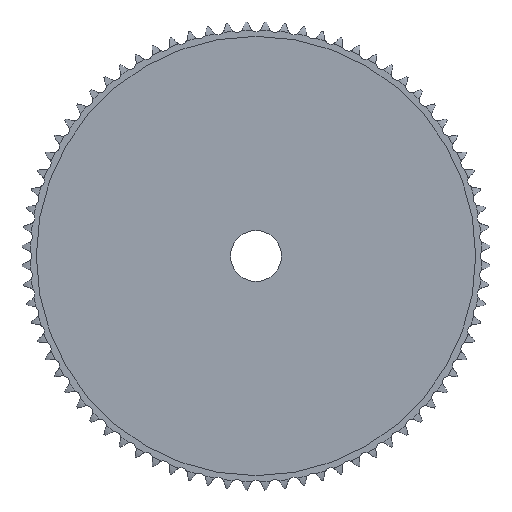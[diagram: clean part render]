
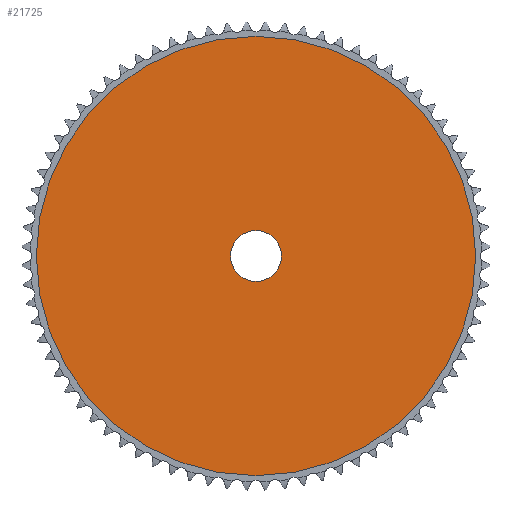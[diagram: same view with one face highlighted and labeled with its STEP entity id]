
A CAD part, top view. The second image highlights one B-rep face of the part: STEP entity #21725.
In plain terms, the highlighted planar face has unit normal (0, 0, 1).
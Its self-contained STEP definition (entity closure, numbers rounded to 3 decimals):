
#12227=CARTESIAN_POINT('',(0.,0.,2.));
#12228=DIRECTION('',(0.,0.,-1.));
#12229=DIRECTION('',(-1.,0.,0.));
#12230=AXIS2_PLACEMENT_3D('',#12227,#12228,#12229);
#12235=CARTESIAN_POINT('',(0.,0.,2.));
#12236=DIRECTION('',(0.,0.,-1.));
#12237=DIRECTION('',(1.,0.,0.));
#12238=AXIS2_PLACEMENT_3D('',#12235,#12236,#12237);
#12243=CARTESIAN_POINT('',(0.,0.,2.));
#12244=DIRECTION('',(0.,0.,1.));
#12245=DIRECTION('',(1.,0.,0.));
#12246=AXIS2_PLACEMENT_3D('',#12243,#12244,#12245);
#12251=CARTESIAN_POINT('',(0.,0.,2.));
#12252=DIRECTION('',(0.,0.,1.));
#12253=DIRECTION('',(-1.,0.,0.));
#12254=AXIS2_PLACEMENT_3D('',#12251,#12252,#12253);
#13578=CARTESIAN_POINT('',(-69.095,0.,2.));
#13579=CARTESIAN_POINT('',(69.095,0.,2.));
#13580=VERTEX_POINT('',#13578);
#13581=VERTEX_POINT('',#13579);
#13598=CARTESIAN_POINT('',(8.,0.,2.));
#13599=VERTEX_POINT('',#13598);
#13600=CARTESIAN_POINT('',(-8.,0.,2.));
#13601=VERTEX_POINT('',#13600);
#21710=CARTESIAN_POINT('',(0.,0.,2.));
#21711=DIRECTION('',(0.,0.,1.));
#21712=DIRECTION('',(1.,0.,0.));
#21713=AXIS2_PLACEMENT_3D('',#21710,#21711,#21712);
#21714=PLANE('',#21713);
#21715=ORIENTED_EDGE('',*,*,#21662,.T.);
#21716=ORIENTED_EDGE('',*,*,#21691,.T.);
#21717=EDGE_LOOP('',(#21715,#21716));
#21718=FACE_OUTER_BOUND('',#21717,.F.);
#21720=ORIENTED_EDGE('',*,*,#21719,.T.);
#21722=ORIENTED_EDGE('',*,*,#21721,.T.);
#21723=EDGE_LOOP('',(#21720,#21722));
#21724=FACE_BOUND('',#21723,.F.);
#21725=ADVANCED_FACE('',(#21718,#21724),#21714,.T.);
#12231=CIRCLE('',#12230,69.095);
#12239=CIRCLE('',#12238,69.095);
#12247=CIRCLE('',#12246,8.);
#12255=CIRCLE('',#12254,8.);
#21662=EDGE_CURVE('',#13580,#13581,#12231,.T.);
#21691=EDGE_CURVE('',#13581,#13580,#12239,.T.);
#21719=EDGE_CURVE('',#13599,#13601,#12247,.T.);
#21721=EDGE_CURVE('',#13601,#13599,#12255,.T.);
